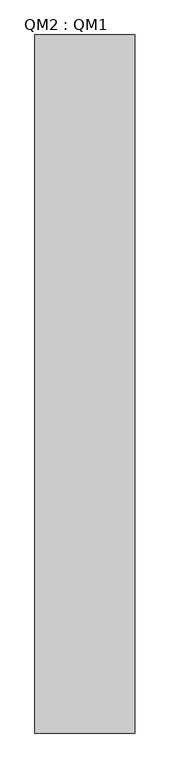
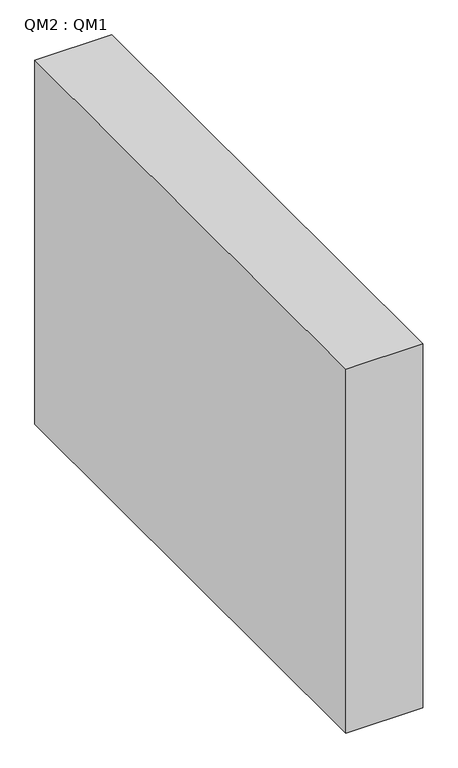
"""IFC4 building model written with IfcOpenShell, lengths in millimetres: proxy geometry, QM2 : QM1."""

from ifc_helpers import new_model, si_unit, frame, origin, place, context, project, spatial, polyline, outline, extrude, source, transform, mapped, element, save


def qm2_qm1_dc551427(model_context):
    return source(origin(), model_context, "Body", "SweptSolid", [
        extrude(outline(polyline([(21792.1746511, -2131.7178255), (22192.1746511, -2131.7178255), (22192.1746511, -4931.7178255), (21792.1746511, -4931.7178255), (21792.1746511, -2131.7178255)])), frame((0.0, 0.0, 850.0), z_axis=(0.0, 0.0, 1.0), x_axis=(1.0, 0.0, 0.0)), (0.0, 0.0, 1.0), 2000.0),
    ])


if __name__ == "__main__":
    model = new_model("IFC4")
    model_context = context("Model", 3, world=origin())
    ifc_project = project(units=[si_unit("LENGTHUNIT", "METRE", prefix="MILLI")], contexts=[model_context])
    site = spatial("IfcSite", under=ifc_project)
    building = spatial("IfcBuilding", under=site)
    placement = place(None, origin())
    qm2_qm1_shape = qm2_qm1_dc551427(model_context)
    element("IfcBuildingElementProxy", 1, Name="QM2 : QM1", ObjectType="QM2 : QM1", at=placement, inside=building, context=model_context, shape_type="MappedRepresentation", body=[
        mapped(qm2_qm1_shape, transform((0.0, 0.0, 0.0), x_axis=(1.0, 0.0, 0.0), y_axis=(0.0, 1.0, 0.0), z_axis=(0.0, 0.0, 1.0))),
    ])
    save(model, "model.ifc")
